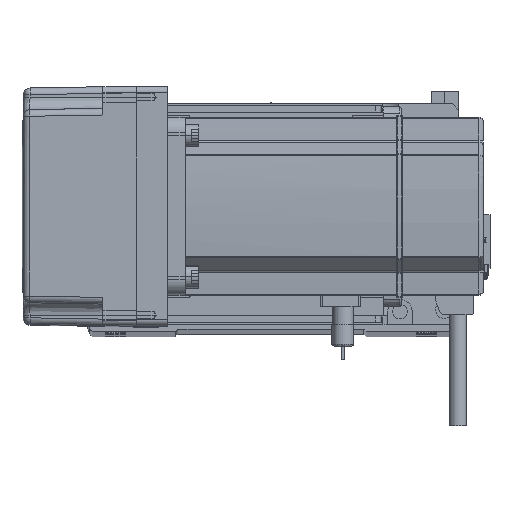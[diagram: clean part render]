
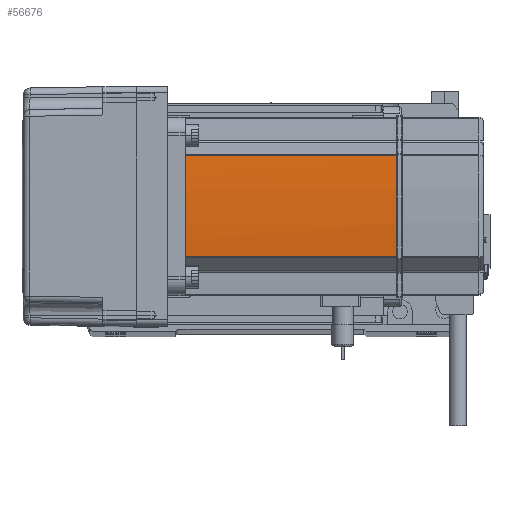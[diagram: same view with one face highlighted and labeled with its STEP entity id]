
A CAD part, top view. The second image highlights one B-rep face of the part: STEP entity #56676.
In plain terms, the highlighted cylindrical face has radius 270 mm (diameter 540 mm), a partial arc.
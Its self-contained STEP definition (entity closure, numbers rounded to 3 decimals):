
#215 = DIRECTION ( 'NONE',  ( 0., 0., 1. ) ) ;
#390 = VECTOR ( 'NONE', #5748, 1000. ) ;
#1161 = LINE ( 'NONE', #32687, #390 ) ;
#2430 = EDGE_CURVE ( 'NONE', #25106, #57353, #27128, .T. ) ;
#3429 = VERTEX_POINT ( 'NONE', #55200 ) ;
#5233 = EDGE_CURVE ( 'NONE', #25106, #47144, #13196, .T. ) ;
#5543 = ORIENTED_EDGE ( 'NONE', *, *, #29531, .T. ) ;
#5748 = DIRECTION ( 'NONE',  ( 0., 0., -1. ) ) ;
#10565 = CARTESIAN_POINT ( 'NONE',  ( -230., 0., 39. ) ) ;
#10950 = DIRECTION ( 'NONE',  ( 0., 0., -1. ) ) ;
#13196 = CIRCLE ( 'NONE', #36140, 270. ) ;
#13244 = VERTEX_POINT ( 'NONE', #51926 ) ;
#14645 = CARTESIAN_POINT ( 'NONE',  ( 40., -0.042, 134. ) ) ;
#14843 = CARTESIAN_POINT ( 'NONE',  ( 40., -0.127, 134. ) ) ;
#15081 = DIRECTION ( 'NONE',  ( -1., 0., 0. ) ) ;
#15473 = CARTESIAN_POINT ( 'NONE',  ( -230., 0., 134. ) ) ;
#19647 = CARTESIAN_POINT ( 'NONE',  ( 40., 0.042, 134. ) ) ;
#21576 = DIRECTION ( 'NONE',  ( 0., 0., -1. ) ) ;
#21767 = VERTEX_POINT ( 'NONE', #56335 ) ;
#23421 = CIRCLE ( 'NONE', #49046, 270. ) ;
#24398 = DIRECTION ( 'NONE',  ( -1., 0., 0. ) ) ;
#24950 = CYLINDRICAL_SURFACE ( 'NONE', #27662, 270. ) ;
#25106 = VERTEX_POINT ( 'NONE', #46845 ) ;
#27099 = FACE_OUTER_BOUND ( 'NONE', #40243, .T. ) ;
#27128 = LINE ( 'NONE', #32193, #34365 ) ;
#27662 = AXIS2_PLACEMENT_3D ( 'NONE', #53897, #49457, #49261 ) ;
#27682 = ORIENTED_EDGE ( 'NONE', *, *, #52724, .T. ) ;
#28750 = DIRECTION ( 'NONE',  ( 0., 0., -1. ) ) ;
#29531 = EDGE_CURVE ( 'NONE', #13244, #47144, #1161, .T. ) ;
#31910 = ORIENTED_EDGE ( 'NONE', *, *, #51413, .F. ) ;
#32193 = CARTESIAN_POINT ( 'NONE',  ( 39.042, 22.724, 58. ) ) ;
#32687 = CARTESIAN_POINT ( 'NONE',  ( 39.042, -22.724, 58. ) ) ;
#33419 = ORIENTED_EDGE ( 'NONE', *, *, #5233, .F. ) ;
#33954 = ORIENTED_EDGE ( 'NONE', *, *, #2430, .T. ) ;
#34365 = VECTOR ( 'NONE', #215, 1000. ) ;
#35066 = B_SPLINE_CURVE_WITH_KNOTS ( 'NONE', 3,
 ( #14843, #14645, #19647, #47618 ),
 .UNSPECIFIED., .F., .F.,
 ( 4, 4 ),
 ( 0., 1. ),
 .UNSPECIFIED. ) ;
#36140 = AXIS2_PLACEMENT_3D ( 'NONE', #10565, #10950, #24398 ) ;
#40243 = EDGE_LOOP ( 'NONE', ( #5543, #33419, #33954, #27682, #31910, #57432 ) ) ;
#40516 = DIRECTION ( 'NONE',  ( -1., 0., 0. ) ) ;
#40970 = EDGE_CURVE ( 'NONE', #3429, #13244, #55453, .T. ) ;
#46845 = CARTESIAN_POINT ( 'NONE',  ( 39.042, 22.724, 39. ) ) ;
#47144 = VERTEX_POINT ( 'NONE', #51590 ) ;
#47618 = CARTESIAN_POINT ( 'NONE',  ( 40., 0.127, 134. ) ) ;
#49046 = AXIS2_PLACEMENT_3D ( 'NONE', #54417, #21576, #40516 ) ;
#49261 = DIRECTION ( 'NONE',  ( -1., 0., 0. ) ) ;
#49457 = DIRECTION ( 'NONE',  ( 0., 0., -1. ) ) ;
#49983 = CARTESIAN_POINT ( 'NONE',  ( 39.042, 22.724, 134. ) ) ;
#51413 = EDGE_CURVE ( 'NONE', #3429, #21767, #35066, .T. ) ;
#51590 = CARTESIAN_POINT ( 'NONE',  ( 39.042, -22.724, 39. ) ) ;
#51926 = CARTESIAN_POINT ( 'NONE',  ( 39.042, -22.724, 134. ) ) ;
#52724 = EDGE_CURVE ( 'NONE', #57353, #21767, #23421, .T. ) ;
#53897 = CARTESIAN_POINT ( 'NONE',  ( -230., 0., 58. ) ) ;
#54417 = CARTESIAN_POINT ( 'NONE',  ( -230., 0., 134. ) ) ;
#54510 = AXIS2_PLACEMENT_3D ( 'NONE', #15473, #28750, #15081 ) ;
#55200 = CARTESIAN_POINT ( 'NONE',  ( 40., -0.127, 134. ) ) ;
#55453 = CIRCLE ( 'NONE', #54510, 270. ) ;
#56335 = CARTESIAN_POINT ( 'NONE',  ( 40., 0.127, 134. ) ) ;
#56676 = ADVANCED_FACE ( 'NONE', ( #27099 ), #24950, .T. ) ;
#57353 = VERTEX_POINT ( 'NONE', #49983 ) ;
#57432 = ORIENTED_EDGE ( 'NONE', *, *, #40970, .T. ) ;
